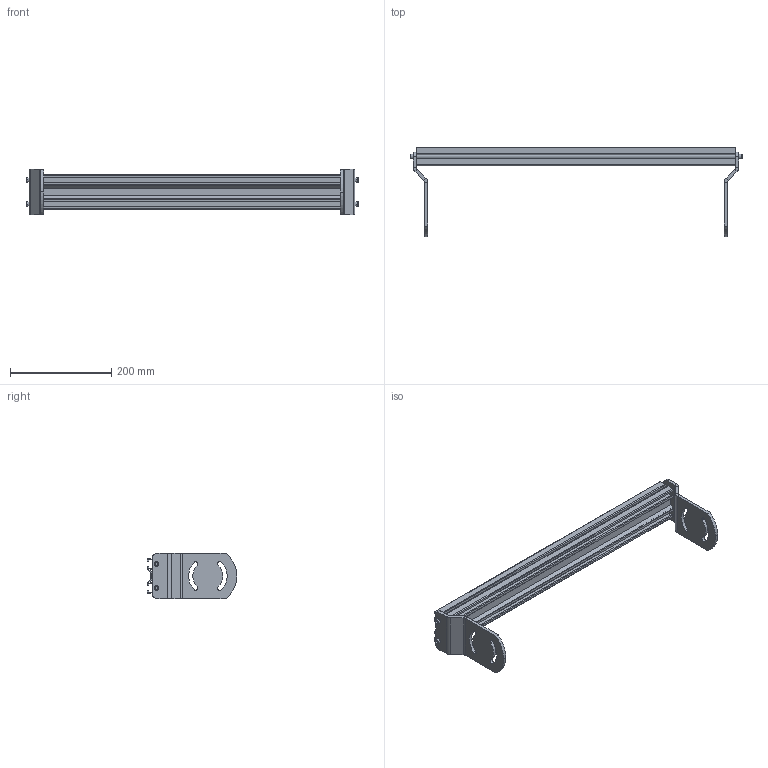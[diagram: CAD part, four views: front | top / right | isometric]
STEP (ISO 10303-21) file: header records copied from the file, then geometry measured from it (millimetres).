
FILE_DESCRIPTION((''),'2;1');
FILE_NAME('39MCM22-2_ASM','2023-03-01T',('jenni.wallner'),(''),'PRO/ENGINEER BY PARAMETRIC TECHNOLOGY CORPORATION, 2012420','PRO/ENGINEER BY PARAMETRIC TECHNOLOGY CORPORATION, 2012420','');
FILE_SCHEMA(('CONFIG_CONTROL_DESIGN'));
Length unit declared in the file: inch
Products named in the file (5): 710210_02479; 300825M; 708180P; 39MCM22-2_ASM_ASM; 39MCM22-2_ASM
Assembly tree (8 placements, depth 3):
  39MCM22-2_ASM
    39MCM22-2_ASM_ASM
      710210_02479
      300825M  x2
      708180P  x4
Bounding box: 654.37 x 176.65 x 88.93 mm (x, y, z)
Volume: 624320.7 mm3; surface area: 440550.4 mm2
Topology: 7 solids, 7 shells, 256 faces, 702 edges, 468 vertices
Faces by surface type: plane 144, cylinder 92, cone 20
Entity records: 5052 total; most frequent: CARTESIAN_POINT 890, DIRECTION 863, ORIENTED_EDGE 836, EDGE_CURVE 418, VECTOR 301, LINE 301, AXIS2_PLACEMENT_3D 281, VERTEX_POINT 276
